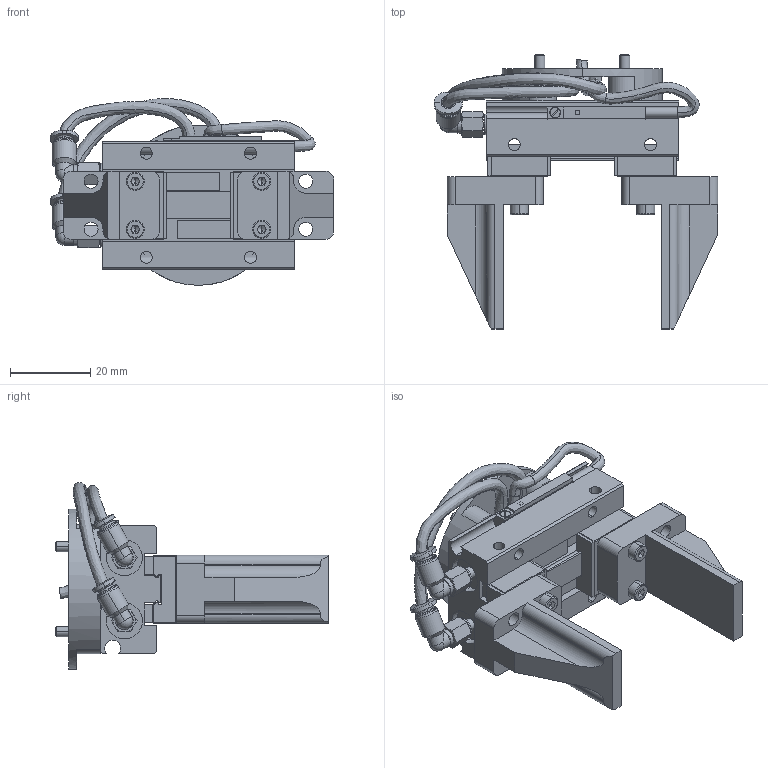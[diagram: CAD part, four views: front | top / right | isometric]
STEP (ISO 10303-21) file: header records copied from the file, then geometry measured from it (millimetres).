
FILE_DESCRIPTION (( 'STEP AP214' ), '1' );
FILE_NAME ('astorino_pneumaticGripper.STEP', '2024-05-02T08:41:19', ( '' ), ( '' ), 'SwSTEP 2.0', 'SolidWorks 2021', '' );
FILE_SCHEMA (( 'AUTOMOTIVE_DESIGN' ));
Length unit declared in the file: millimetre
Products named in the file (1): astorino_pneumaticGripper
Bounding box: 70.8 x 68.4 x 46.62 mm (x, y, z)
Surface area: 21522 mm2 (no closed solid volume)
Topology: 0 solids, 25 shells, 451 faces, 1356 edges, 911 vertices
Faces by surface type: plane 194, cylinder 169, cone 60, torus 16, bspline 10, sphere 2
Entity records: 23761 total; most frequent: CARTESIAN_POINT 6514, DIRECTION 2678, ORIENTED_EDGE 2317, EDGE_CURVE 1346, AXIS2_PLACEMENT_3D 974, VERTEX_POINT 911, LINE 730, VECTOR 730
